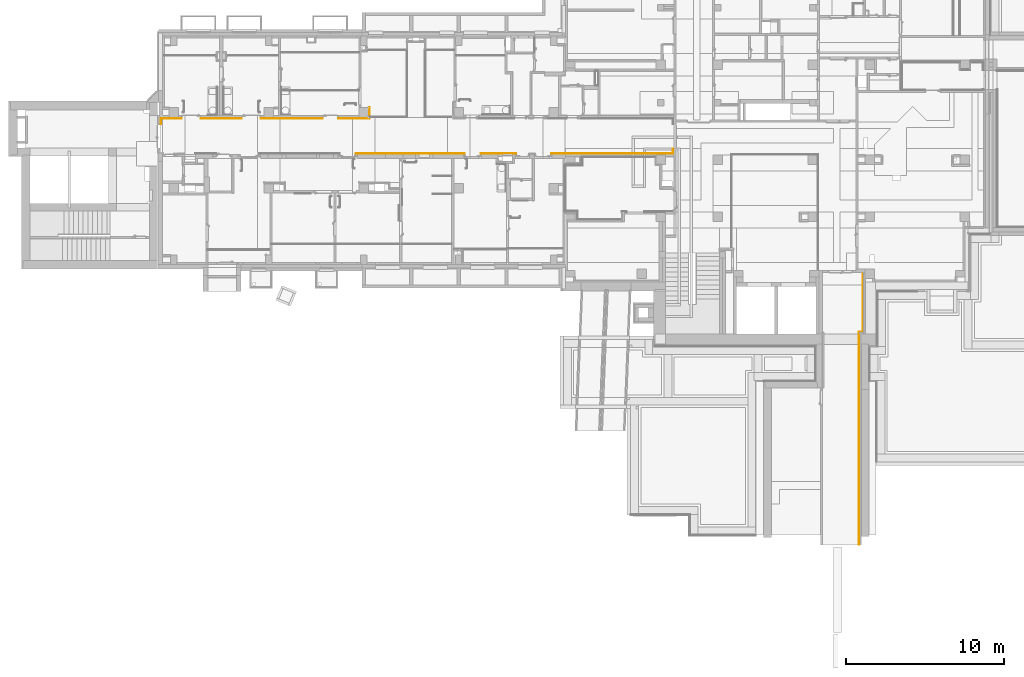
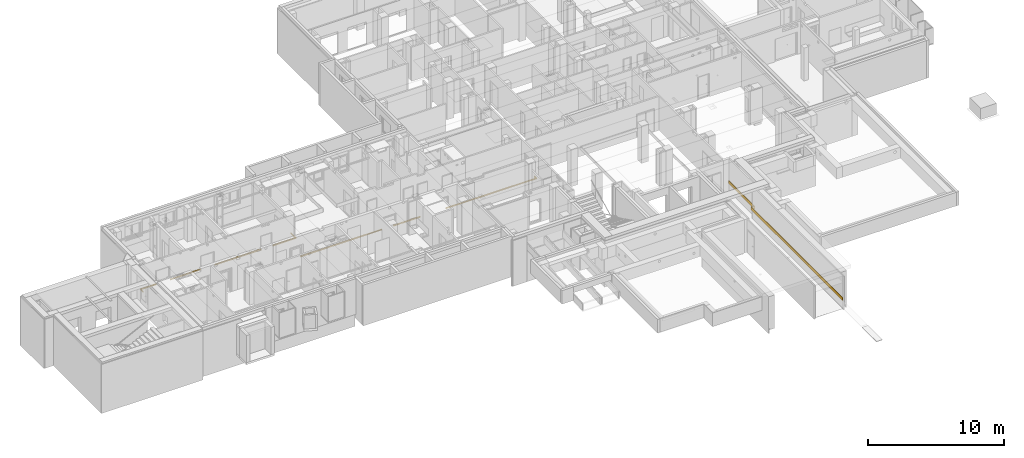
# One storey, part 80 of 84: 8 railings.
"""IFC4 building model written with IfcOpenShell, lengths in metres."""

from ifc_helpers import new_model, entity, si_unit, converted_unit, derived_unit, frame, origin, place, context, subcontext, project, spatial, faceted_brep, material, element, save


model = new_model("IFC4")

# Units and contexts
model_context = context("Model", 3, precision=1e-05, world=origin())
body_context = subcontext(model_context, "Body", "Model", "MODEL_VIEW")
ifc_project = project(units=[si_unit("LENGTHUNIT", "METRE"), si_unit("AREAUNIT", "SQUARE_METRE"), si_unit("VOLUMEUNIT", "CUBIC_METRE"), si_unit("MASSUNIT", "GRAM", prefix="KILO"), converted_unit("PLANEANGLEUNIT", "DEGREE", entity("IfcPlaneAngleMeasure", 0.0174532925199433), si_unit("PLANEANGLEUNIT", "RADIAN"), dimensions=[0, 0, 0, 0, 0, 0, 0]), derived_unit("THERMALTRANSMITTANCEUNIT", [(si_unit("POWERUNIT", "WATT"), 1), (si_unit("THERMODYNAMICTEMPERATUREUNIT", "KELVIN"), -1), (si_unit("LENGTHUNIT", "METRE"), -2)]), derived_unit("VOLUMETRICFLOWRATEUNIT", [(si_unit("LENGTHUNIT", "METRE"), 3), (converted_unit("TIMEUNIT", "hour", entity("IfcTimeMeasure", 3600.0), si_unit("TIMEUNIT", "SECOND"), dimensions=[0, 0, 1, 0, 0, 0, 0]), -1), (si_unit("LENGTHUNIT", "METRE"), -1)])], contexts=[model_context])

# Site, building, storey
site_placement = place(None, origin())
site = spatial("IfcSite", under=ifc_project, at=site_placement, Name="3. ASŘ", CompositionType="ELEMENT")
building_placement = place(site_placement, origin())
building = spatial("IfcBuilding", under=site, at=building_placement, Name="Pavilon C", CompositionType="ELEMENT")
storey_placement = place(building_placement, frame((0.0, 0.0, -3.3)))
storey = spatial("IfcBuildingStorey", under=building, at=storey_placement, Name="Půdorys 1.PP", CompositionType="ELEMENT", Elevation=-3.3)

# Railings
ifc_material = material(Name="TiZn")
railing_1_placement = place(storey_placement, frame((43.25, -17.125, 0.75)))
element("IfcRailing", 1, at=railing_1_placement, inside=storey, material=ifc_material, Name="Rail_Path", PredefinedType="USERDEFINED", context=body_context, shape_type="Brep", body=[
    faceted_brep([(0.3, 17.2, 0.25), (0.25, 17.2, 0.25), (0.25, 17.2, 0.0), (0.3, 17.2, 0.0), (0.3, 13.425, 0.25), (0.05, 13.425, 0.25), (0.05, 0.0, 0.25), (0.0, 0.0, 0.25), (0.0, 13.475, 0.25), (0.25, 13.475, 0.25), (0.25, 13.475, 0.0), (0.0, 13.475, 0.0), (0.0, 0.0, 0.0), (0.05, 0.0, 0.0), (0.05, 13.425, 0.0), (0.3, 13.425, 0.0)], [[[0, 1, 2, 3]], [[0, 4, 5, 6, 7, 8, 9, 1]], [[1, 9, 10, 2]], [[2, 10, 11, 12, 13, 14, 15, 3]], [[3, 15, 4, 0]], [[9, 8, 11, 10]], [[15, 14, 5, 4]], [[6, 13, 12, 7]], [[8, 7, 12, 11]], [[14, 13, 6, 5]]], orient=[[False], [False], [False], [False], [False], [False], [False], [False], [False], [False]]),
])
railing_2_placement = place(storey_placement, frame((10.4, 9.795, 0.81)))
element("IfcRailing", 2, at=railing_2_placement, inside=storey, Name="NÁRAZOVÉ MADLO", PredefinedType="USERDEFINED", context=body_context, shape_type="Brep", body=[
    faceted_brep([(0.0, 0.04, 0.09), (0.0, 0.0, 0.09), (0.0, 0.0, 0.0), (0.0, 0.04, 0.0), (1.94, 0.04, 0.09), (1.94, 0.705, 0.09), (1.98, 0.705, 0.09), (1.98, 0.0, 0.09), (1.98, 0.0, 0.0), (1.98, 0.705, 0.0), (1.94, 0.705, 0.0), (1.94, 0.04, 0.0)], [[[0, 1, 2, 3]], [[0, 4, 5, 6, 7, 1]], [[1, 7, 8, 2]], [[2, 8, 9, 10, 11, 3]], [[3, 11, 4, 0]], [[5, 10, 9, 6]], [[7, 6, 9, 8]], [[11, 10, 5, 4]]], orient=[[False], [False], [False], [False], [False], [False], [False], [False]]),
])
railing_3_placement = place(storey_placement, frame((23.825, 7.565, 0.81)))
element("IfcRailing", 3, at=railing_3_placement, inside=storey, Name="NÁRAZOVÉ MADLO", PredefinedType="USERDEFINED", context=body_context, shape_type="Brep", body=[
    faceted_brep([(7.71, 0.334999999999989, 0.09), (7.67, 0.334999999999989, 0.09), (7.67, 0.334999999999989, 0.0), (7.71, 0.334999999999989, 0.0), (7.71, 9.09494701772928e-16, 0.09), (0.0, 2.72848410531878e-15, 0.09), (0.0, 0.0400000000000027, 0.09), (7.67, 0.0400000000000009, 0.09), (7.67, 0.0400000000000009, 0.0), (0.0, 0.0400000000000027, 0.0), (0.0, 2.72848410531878e-15, 0.0), (7.71, 9.09494701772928e-16, 0.0)], [[[0, 1, 2, 3]], [[0, 4, 5, 6, 7, 1]], [[1, 7, 8, 2]], [[2, 8, 9, 10, 11, 3]], [[3, 11, 4, 0]], [[5, 10, 9, 6]], [[7, 6, 9, 8]], [[11, 10, 5, 4]]], orient=[[False], [False], [False], [False], [False], [False], [False], [False]]),
])
railing_4_placement = place(storey_placement, frame((19.375, 7.565, 0.81)))
element("IfcRailing", 4, at=railing_4_placement, inside=storey, Name="NÁRAZOVÉ MADLO", PredefinedType="USERDEFINED", context=body_context, shape_type="Brep", body=[
    faceted_brep([(2.25, 0.0, 0.09), (2.25, 0.04, 0.09), (2.25, 0.04, 0.0), (2.25, 0.0, 0.0), (0.0, 9.09494701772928e-16, 0.09), (0.0, 9.09494701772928e-16, 0.0), (0.0, 0.0400000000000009, 0.0), (0.0, 0.0400000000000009, 0.09)], [[[0, 1, 2, 3]], [[4, 5, 6, 7]], [[0, 4, 7, 1]], [[1, 7, 6, 2]], [[2, 6, 5, 3]], [[3, 5, 4, 0]]], orient=[[False], [False], [False], [False], [False], [False]]),
])
railing_5_placement = place(storey_placement, frame((11.475, 7.565, 0.81)))
element("IfcRailing", 5, at=railing_5_placement, inside=storey, Name="NÁRAZOVÉ MADLO", PredefinedType="USERDEFINED", context=body_context, shape_type="Brep", body=[
    faceted_brep([(6.9, 0.0, 0.09), (6.9, 0.04, 0.09), (6.9, 0.04, 0.0), (6.9, 0.0, 0.0), (0.0, 1.81898940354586e-15, 0.09), (0.0, 1.81898940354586e-15, 0.0), (0.0, 0.0400000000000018, 0.0), (0.0, 0.0400000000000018, 0.09)], [[[0, 1, 2, 3]], [[4, 5, 6, 7]], [[0, 4, 7, 1]], [[1, 7, 6, 2]], [[2, 6, 5, 3]], [[3, 5, 4, 0]]], orient=[[False], [False], [False], [False], [False], [False]]),
])
railing_6_placement = place(storey_placement, frame((5.50000000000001, 9.795, 0.81)))
element("IfcRailing", 6, at=railing_6_placement, inside=storey, Name="NÁRAZOVÉ MADLO", PredefinedType="USERDEFINED", context=body_context, shape_type="Brep", body=[
    faceted_brep([(0.0, 0.04, 0.09), (0.0, 0.0, 0.09), (0.0, 0.0, 0.0), (0.0, 0.04, 0.0), (3.9, 0.04, 0.09), (3.9, 0.04, 0.0), (3.9, 0.0, 0.0), (3.9, 0.0, 0.09)], [[[0, 1, 2, 3]], [[4, 5, 6, 7]], [[0, 4, 7, 1]], [[1, 7, 6, 2]], [[2, 6, 5, 3]], [[3, 5, 4, 0]]], orient=[[False], [False], [False], [False], [False], [False]]),
])
railing_7_placement = place(storey_placement, frame((1.70000000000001, 9.795, 0.81)))
element("IfcRailing", 7, at=railing_7_placement, inside=storey, Name="NÁRAZOVÉ MADLO", PredefinedType="USERDEFINED", context=body_context, shape_type="Brep", body=[
    faceted_brep([(0.0, 0.04, 0.09), (0.0, 0.0, 0.09), (0.0, 0.0, 0.0), (0.0, 0.04, 0.0), (2.6, 0.04, 0.09), (2.6, 0.04, 0.0), (2.6, 0.0, 0.0), (2.6, 0.0, 0.09)], [[[0, 1, 2, 3]], [[4, 5, 6, 7]], [[0, 4, 7, 1]], [[1, 7, 6, 2]], [[2, 6, 5, 3]], [[3, 5, 4, 0]]], orient=[[False], [False], [False], [False], [False], [False]]),
])
railing_8_placement = place(storey_placement, frame((-0.834999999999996, 9.45, 0.81)))
element("IfcRailing", 8, at=railing_8_placement, inside=storey, Name="NÁRAZOVÉ MADLO", PredefinedType="USERDEFINED", context=body_context, shape_type="Brep", body=[
    faceted_brep([(1.33500000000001, 0.345000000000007, 0.09), (1.33500000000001, 0.385000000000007, 0.09), (1.33500000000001, 0.385000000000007, 0.0), (1.33500000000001, 0.345000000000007, 0.0), (0.0400000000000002, 0.345000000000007, 0.09), (0.04, 0.0, 0.09), (0.0, 0.0, 0.09), (2.27373675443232e-16, 0.385000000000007, 0.09), (2.27373675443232e-16, 0.385000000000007, 0.0), (0.0, 0.0, 0.0), (0.04, 0.0, 0.0), (0.0400000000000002, 0.345000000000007, 0.0)], [[[0, 1, 2, 3]], [[0, 4, 5, 6, 7, 1]], [[1, 7, 8, 2]], [[2, 8, 9, 10, 11, 3]], [[3, 11, 4, 0]], [[5, 10, 9, 6]], [[7, 6, 9, 8]], [[11, 10, 5, 4]]], orient=[[False], [False], [False], [False], [False], [False], [False], [False]]),
])

save(model, "model.ifc")
